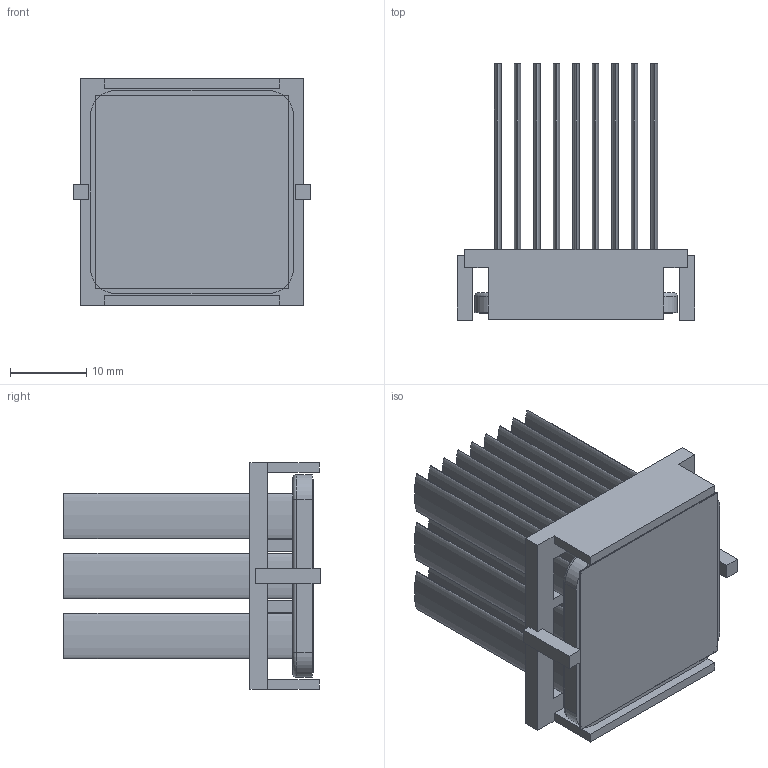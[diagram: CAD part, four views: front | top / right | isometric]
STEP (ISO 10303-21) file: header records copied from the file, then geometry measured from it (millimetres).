
FILE_DESCRIPTION (( 'STEP AP214' ), '1' );
FILE_NAME ('INM27001-33W_2.6+O.STEP', '2023-02-17T18:36:11', ( '' ), ( '' ), 'SwSTEP 2.0', 'SolidWorks 2020', '' );
FILE_SCHEMA (( 'AUTOMOTIVE_DESIGN' ));
Length unit declared in the file: inch
Products named in the file (1): INM27001-33W_2.6+O
Bounding box: 31.2 x 33.6 x 29.7 mm (x, y, z)
Volume: 6533.7 mm3; surface area: 15113.6 mm2
Topology: 3 solids, 3 shells, 159 faces, 370 edges, 244 vertices
Faces by surface type: plane 93, bspline 54, cylinder 8, torus 4
Entity records: 6735 total; most frequent: CARTESIAN_POINT 1476, ORIENTED_EDGE 740, DIRECTION 494, EDGE_CURVE 370, VERTEX_POINT 244, VECTOR 242, LINE 242, EDGE_LOOP 188
